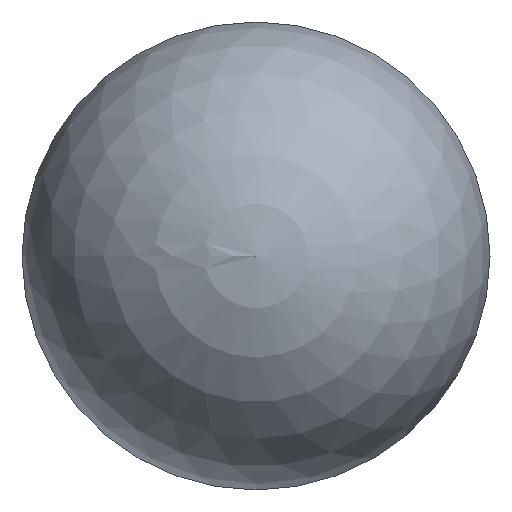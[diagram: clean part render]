
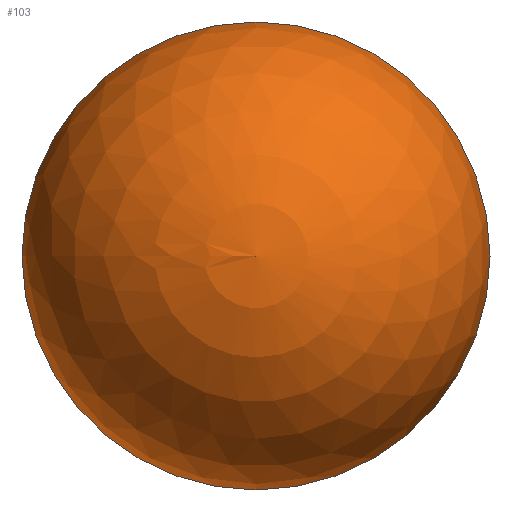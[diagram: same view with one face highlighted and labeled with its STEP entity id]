
A CAD part, left-side view. The second image highlights one B-rep face of the part: STEP entity #103.
In plain terms, the highlighted spherical face has radius 6 mm.
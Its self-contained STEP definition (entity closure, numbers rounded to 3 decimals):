
#101=SPHERICAL_SURFACE('',#134,6.);
#103=ADVANCED_FACE('',(#108),#101,.T.);
#108=FACE_OUTER_BOUND('',#110,.T.);
#110=EDGE_LOOP('',(#116));
#116=ORIENTED_EDGE('',*,*,#125,.T.);
#122=VERTEX_POINT('',#159);
#125=EDGE_CURVE('',#122,#122,#128,.T.);
#128=CIRCLE('',#133,6.);
#133=AXIS2_PLACEMENT_3D('',#158,#144,#145);
#134=AXIS2_PLACEMENT_3D('',#160,#146,#147);
#144=DIRECTION('',(-1.,0.,0.));
#145=DIRECTION('',(0.,-1.,0.));
#146=DIRECTION('',(-1.,0.,0.));
#147=DIRECTION('',(0.,1.,0.));
#158=CARTESIAN_POINT('',(7847.207,6133.599,0.));
#159=CARTESIAN_POINT('',(7847.207,6127.599,0.));
#160=CARTESIAN_POINT('',(7847.21,6133.599,0.));
